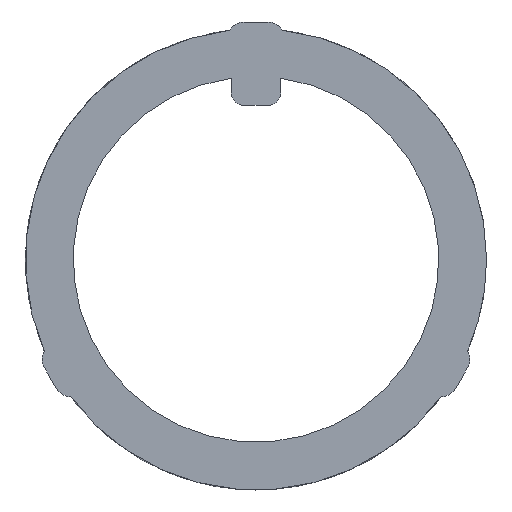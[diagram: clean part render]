
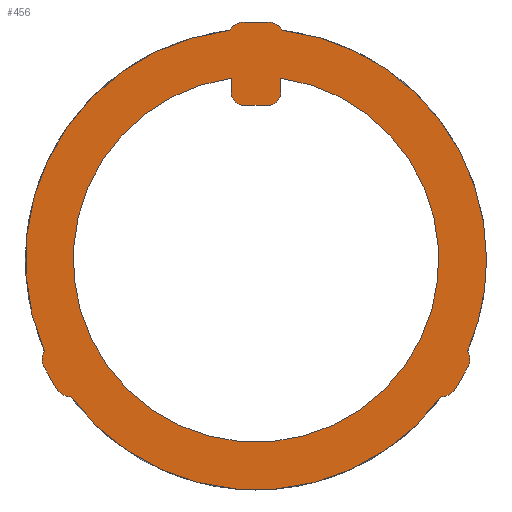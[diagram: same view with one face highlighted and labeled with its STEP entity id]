
A CAD part, front view. The second image highlights one B-rep face of the part: STEP entity #456.
In plain terms, the highlighted planar face has unit normal (0, -1, 0).
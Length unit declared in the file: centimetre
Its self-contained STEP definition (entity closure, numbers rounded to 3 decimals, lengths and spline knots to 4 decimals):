
#105=CIRCLE('',#469,0.2286);
#107=CIRCLE('',#473,0.2286);
#111=CIRCLE('',#479,3.4036);
#115=CIRCLE('',#485,0.3175);
#116=CIRCLE('',#487,0.3175);
#117=CIRCLE('',#490,4.2926);
#118=CIRCLE('',#491,0.3175);
#119=CIRCLE('',#492,0.3175);
#120=CIRCLE('',#493,0.3175);
#121=CIRCLE('',#494,0.3175);
#137=VECTOR('',#511,1.);
#142=VECTOR('',#517,1.);
#144=VECTOR('',#526,1.);
#152=VECTOR('',#565,1.);
#153=VECTOR('',#571,1.);
#154=VECTOR('',#576,1.);
#165=LINE('',#621,#137);
#170=LINE('',#636,#142);
#172=LINE('',#644,#144);
#180=LINE('',#680,#152);
#181=LINE('',#687,#153);
#182=LINE('',#694,#154);
#193=VERTEX_POINT('',#619);
#195=VERTEX_POINT('',#622);
#198=VERTEX_POINT('',#631);
#200=VERTEX_POINT('',#635);
#201=VERTEX_POINT('',#639);
#203=VERTEX_POINT('',#645);
#210=VERTEX_POINT('',#669);
#211=VERTEX_POINT('',#671);
#212=VERTEX_POINT('',#675);
#213=VERTEX_POINT('',#677);
#214=VERTEX_POINT('',#683);
#215=VERTEX_POINT('',#684);
#216=VERTEX_POINT('',#686);
#217=VERTEX_POINT('',#688);
#218=VERTEX_POINT('',#690);
#219=VERTEX_POINT('',#691);
#220=VERTEX_POINT('',#693);
#221=VERTEX_POINT('',#695);
#233=EDGE_CURVE('',#193,#195,#165,.T.);
#239=EDGE_CURVE('',#200,#198,#170,.T.);
#240=EDGE_CURVE('',#195,#201,#105,.T.);
#243=EDGE_CURVE('',#201,#203,#172,.T.);
#246=EDGE_CURVE('',#203,#200,#107,.T.);
#250=EDGE_CURVE('',#193,#198,#111,.T.);
#256=EDGE_CURVE('',#211,#210,#115,.T.);
#260=EDGE_CURVE('',#212,#213,#116,.T.);
#261=EDGE_CURVE('',#213,#211,#180,.T.);
#262=EDGE_CURVE('',#212,#214,#117,.T.);
#263=EDGE_CURVE('',#215,#210,#117,.T.);
#264=EDGE_CURVE('',#215,#216,#118,.T.);
#265=EDGE_CURVE('',#216,#217,#181,.T.);
#266=EDGE_CURVE('',#217,#218,#119,.T.);
#267=EDGE_CURVE('',#219,#218,#117,.T.);
#268=EDGE_CURVE('',#219,#220,#120,.T.);
#269=EDGE_CURVE('',#220,#221,#182,.T.);
#270=EDGE_CURVE('',#221,#214,#121,.T.);
#334=ORIENTED_EDGE('',*,*,#250,.T.);
#335=ORIENTED_EDGE('',*,*,#239,.F.);
#336=ORIENTED_EDGE('',*,*,#246,.F.);
#337=ORIENTED_EDGE('',*,*,#243,.F.);
#338=ORIENTED_EDGE('',*,*,#240,.F.);
#339=ORIENTED_EDGE('',*,*,#233,.F.);
#340=ORIENTED_EDGE('',*,*,#262,.F.);
#341=ORIENTED_EDGE('',*,*,#260,.T.);
#342=ORIENTED_EDGE('',*,*,#261,.T.);
#343=ORIENTED_EDGE('',*,*,#256,.T.);
#344=ORIENTED_EDGE('',*,*,#263,.F.);
#345=ORIENTED_EDGE('',*,*,#264,.T.);
#346=ORIENTED_EDGE('',*,*,#265,.T.);
#347=ORIENTED_EDGE('',*,*,#266,.T.);
#348=ORIENTED_EDGE('',*,*,#267,.F.);
#349=ORIENTED_EDGE('',*,*,#268,.T.);
#350=ORIENTED_EDGE('',*,*,#269,.T.);
#351=ORIENTED_EDGE('',*,*,#270,.T.);
#409=EDGE_LOOP('',(#334,#335,#336,#337,#338,#339));
#410=EDGE_LOOP('',(#340,#341,#342,#343,#344,#345,#346,#347,#348,#349,#350,
#351));
#433=FACE_BOUND('',#409,.T.);
#434=FACE_BOUND('',#410,.T.);
#456=ADVANCED_FACE('',(#433,#434),#736,.F.);
#469=AXIS2_PLACEMENT_3D('',#638,#520,#521);
#473=AXIS2_PLACEMENT_3D('',#650,#531,#532);
#479=AXIS2_PLACEMENT_3D('',#657,#542,#543);
#485=AXIS2_PLACEMENT_3D('',#670,#555,#556);
#487=AXIS2_PLACEMENT_3D('',#678,#562,#563);
#489=AXIS2_PLACEMENT_3D('',#681,#566,$);
#490=AXIS2_PLACEMENT_3D('',#682,#567,#568);
#491=AXIS2_PLACEMENT_3D('',#685,#569,#570);
#492=AXIS2_PLACEMENT_3D('',#689,#572,#573);
#493=AXIS2_PLACEMENT_3D('',#692,#574,#575);
#494=AXIS2_PLACEMENT_3D('',#696,#577,#578);
#511=DIRECTION('',(0.,0.,-1.));
#517=DIRECTION('',(0.,0.,1.));
#520=DIRECTION('',(0.,1.,0.));
#521=DIRECTION('',(0.229,0.,0.));
#526=DIRECTION('',(-1.,0.,0.));
#531=DIRECTION('',(0.,1.,0.));
#532=DIRECTION('',(0.229,0.,0.));
#542=DIRECTION('',(0.,1.,0.));
#543=DIRECTION('',(3.404,0.,0.));
#555=DIRECTION('',(0.,-1.,0.));
#556=DIRECTION('',(-0.159,0.,0.275));
#562=DIRECTION('',(0.,-1.,0.));
#563=DIRECTION('',(-0.159,0.,0.275));
#565=DIRECTION('',(0.5,0.,-0.866));
#566=DIRECTION('',(0.,1.,0.));
#567=DIRECTION('',(0.,1.,0.));
#568=DIRECTION('',(4.293,0.,0.));
#569=DIRECTION('',(0.,-1.,0.));
#570=DIRECTION('',(-0.159,0.,-0.275));
#571=DIRECTION('',(0.5,0.,0.866));
#572=DIRECTION('',(0.,-1.,0.));
#573=DIRECTION('',(-0.159,0.,-0.275));
#574=DIRECTION('',(0.,-1.,0.));
#575=DIRECTION('',(0.318,0.,0.));
#576=DIRECTION('',(-1.,0.,0.));
#577=DIRECTION('',(0.,-1.,0.));
#578=DIRECTION('',(0.318,0.,0.));
#619=CARTESIAN_POINT('',(0.4572,0.,3.3728));
#621=CARTESIAN_POINT('',(0.4572,0.,3.8915));
#622=CARTESIAN_POINT('',(0.4572,0.,3.0988));
#631=CARTESIAN_POINT('',(-0.4572,0.,3.3728));
#635=CARTESIAN_POINT('',(-0.4572,0.,3.0988));
#636=CARTESIAN_POINT('',(-0.4572,0.,3.0988));
#638=CARTESIAN_POINT('',(0.2286,0.,3.0988));
#639=CARTESIAN_POINT('',(0.2286,0.,2.8702));
#644=CARTESIAN_POINT('',(0.2286,0.,2.8702));
#645=CARTESIAN_POINT('',(-0.2286,0.,2.8702));
#650=CARTESIAN_POINT('',(-0.2286,0.,3.0988));
#657=CARTESIAN_POINT('',(0.,0.,0.));
#669=CARTESIAN_POINT('',(-3.4471,0.,-2.5581));
#670=CARTESIAN_POINT('',(-3.4431,0.,-2.2406));
#671=CARTESIAN_POINT('',(-3.7181,0.,-2.3993));
#675=CARTESIAN_POINT('',(-3.9389,0.,-1.7063));
#677=CARTESIAN_POINT('',(-3.9369,0.,-2.0203));
#678=CARTESIAN_POINT('',(-3.6619,0.,-1.8615));
#680=CARTESIAN_POINT('',(-3.9369,0.,-2.0203));
#681=CARTESIAN_POINT('',(0.,0.,0.));
#682=CARTESIAN_POINT('',(0.,0.,0.));
#683=CARTESIAN_POINT('',(-0.4918,0.,4.2643));
#684=CARTESIAN_POINT('',(3.4471,0.,-2.5581));
#685=CARTESIAN_POINT('',(3.4431,0.,-2.2406));
#686=CARTESIAN_POINT('',(3.7181,0.,-2.3993));
#687=CARTESIAN_POINT('',(3.7181,0.,-2.3993));
#688=CARTESIAN_POINT('',(3.9369,0.,-2.0203));
#689=CARTESIAN_POINT('',(3.6619,0.,-1.8615));
#690=CARTESIAN_POINT('',(3.9389,0.,-1.7063));
#691=CARTESIAN_POINT('',(0.4918,0.,4.2643));
#692=CARTESIAN_POINT('',(0.2188,0.,4.1021));
#693=CARTESIAN_POINT('',(0.2188,0.,4.4196));
#694=CARTESIAN_POINT('',(0.2188,0.,4.4196));
#695=CARTESIAN_POINT('',(-0.2188,0.,4.4196));
#696=CARTESIAN_POINT('',(-0.2188,0.,4.1021));
#736=PLANE('',#489);
